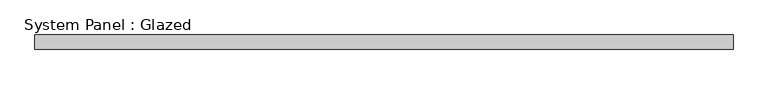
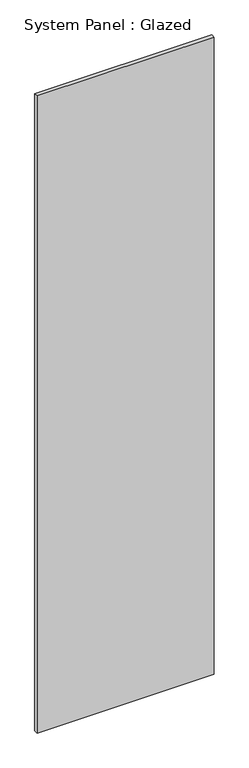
"""IFC4 building model written with IfcOpenShell, lengths in millimetres: plate geometry, System Panel : Glazed."""

from ifc_helpers import new_model, si_unit, origin, origin_with_axes, place, context, project, spatial, polyline, outline, extrude, source, transform, mapped, element, save


def system_panel_glazed_31d10065(model_context):
    return source(origin(), model_context, "Body", "SweptSolid", [
        extrude(outline(polyline([(609.6, 19.05), (-609.6, 19.05), (-609.6, 44.45), (609.6, 44.45), (609.6, 19.05)])), origin_with_axes(), (0.0, 0.0, 1.0), 4629.15),
    ])


if __name__ == "__main__":
    model = new_model("IFC4")
    model_context = context("Model", 3, world=origin())
    ifc_project = project(units=[si_unit("LENGTHUNIT", "METRE", prefix="MILLI")], contexts=[model_context])
    site = spatial("IfcSite", under=ifc_project)
    building = spatial("IfcBuilding", under=site)
    placement = place(None, origin())
    system_panel_glazed_shape = system_panel_glazed_31d10065(model_context)
    element("IfcPlate", 1, ObjectType="System Panel : Glazed", at=placement, inside=building, context=model_context, shape_type="MappedRepresentation", body=[
        mapped(system_panel_glazed_shape, transform((0.0, 0.0, 0.0), x_axis=(1.0, 0.0, 0.0), y_axis=(0.0, 1.0, 0.0), z_axis=(0.0, 0.0, 1.0))),
    ])
    save(model, "model.ifc")
